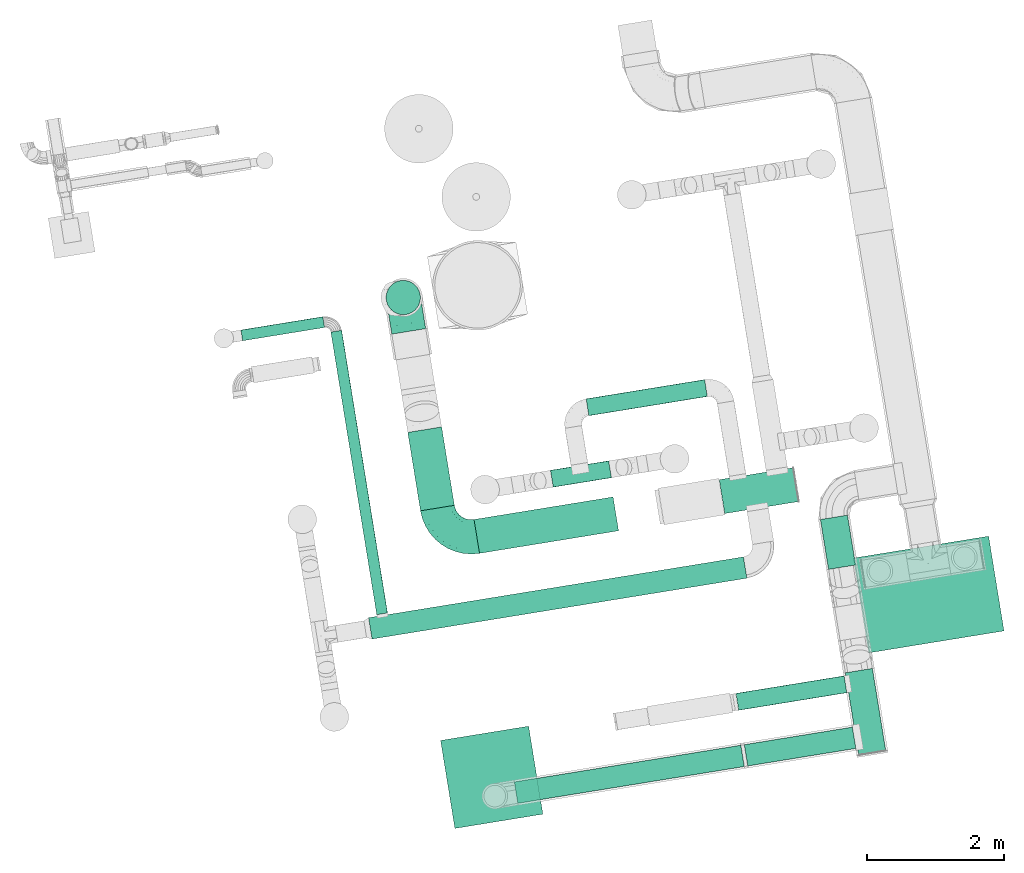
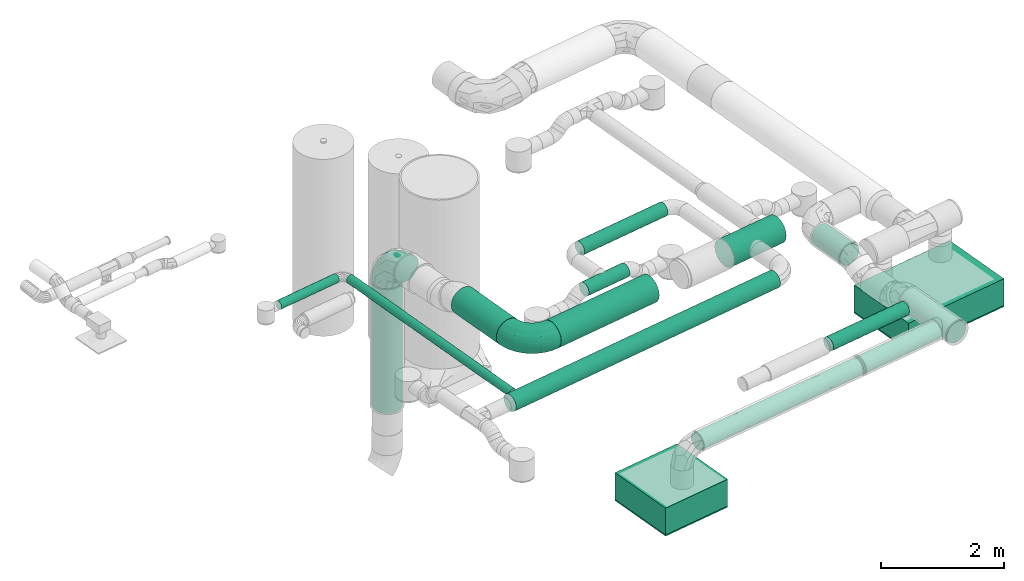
# One storey, part 12 of 39: 16 flow segments, 2 flow fittings, 2 flow terminals.
"""IFC2X3 building model written with IfcOpenShell, lengths in millimetres."""

from ifc_helpers import new_model, entity, si_unit, converted_unit, derived_unit, direction, frame, frame_2d, origin, origin_with_axes, origin_2d_with_axis, place, context, subcontext, project, spatial, rectangle, circle, extrude, faceted_brep, source, transform, mapped, material, type_object, element, save


model = new_model("IFC2X3")

# Units and contexts
model_context = context("Model", 3, precision=0.01, world=origin(), true_north=direction((6.12323399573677e-17, 1.0)))
plan_context = context("Plan", 3, precision=1e-05, world=origin_with_axes())
body_context = subcontext(model_context, "Body", "Model", "MODEL_VIEW")
ifc_project = project(units=[converted_unit("PLANEANGLEUNIT", "DEGREE", entity("IfcPositiveLengthMeasure", 0.0174532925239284), si_unit("PLANEANGLEUNIT", "RADIAN"), dimensions=[0, 0, 0, 0, 0, 0, 0]), si_unit("AREAUNIT", "SQUARE_METRE"), si_unit("LENGTHUNIT", "METRE", prefix="MILLI"), si_unit("MASSUNIT", "GRAM", prefix="KILO"), si_unit("POWERUNIT", "WATT"), si_unit("PRESSUREUNIT", "PASCAL", prefix="KILO"), si_unit("FORCEUNIT", "NEWTON", prefix="KILO"), si_unit("ELECTRICVOLTAGEUNIT", "VOLT"), si_unit("ELECTRICCURRENTUNIT", "AMPERE"), si_unit("THERMODYNAMICTEMPERATUREUNIT", "DEGREE_CELSIUS"), si_unit("TIMEUNIT", "SECOND"), si_unit("VOLUMEUNIT", "CUBIC_METRE"), derived_unit("LINEARVELOCITYUNIT", [(si_unit("LENGTHUNIT", "METRE"), 1), (si_unit("TIMEUNIT", "SECOND"), -1)]), derived_unit("VOLUMETRICFLOWRATEUNIT", [(si_unit("VOLUMEUNIT", "CUBIC_METRE"), 1), (si_unit("TIMEUNIT", "SECOND"), -1)]), derived_unit("THERMALTRANSMITTANCEUNIT", [(si_unit("POWERUNIT", "WATT"), 1), (si_unit("THERMODYNAMICTEMPERATUREUNIT", "KELVIN"), -1), (si_unit("AREAUNIT", "SQUARE_METRE"), -1)]), derived_unit("SOUNDPRESSUREUNIT", [(si_unit("PRESSUREUNIT", "PASCAL"), 1)])], contexts=[model_context, plan_context])

# Site, building, storey
site_placement = place(None, frame((-0.00071070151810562, 0.00438415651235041, 0.0), z_axis=(0.0, 0.0, 1.0), x_axis=(-0.160236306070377, 0.987078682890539, 0.0)))
site = spatial("IfcSite", under=ifc_project, at=site_placement, Name="Default", CompositionType="ELEMENT")
building_placement = place(site_placement, origin_with_axes())
building = spatial("IfcBuilding", under=site, at=building_placement, CompositionType="ELEMENT")
storey_placement = place(building_placement, frame((0.0, 0.0, 50999.9999999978), z_axis=(0.0, 0.0, 1.0), x_axis=(1.0, 0.0, 0.0)))
storey = spatial("IfcBuildingStorey", under=building, at=storey_placement, Name="Nivå D", CompositionType="ELEMENT", Elevation=50999.9999999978)

# Flow fittings
ifc_material = material(Name="<Unnamed>")
duct_fitting_type = type_object("IfcDuctFittingType", Name="magicirc_elbow_full_radius_1:magicirc_elbow_full_radius_001", PredefinedType="NOTDEFINED", material=ifc_material)
shared_shape_1 = source(origin(), body_context, "Body", "Brep", [
    faceted_brep([(-382.674151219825, -240.766255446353, 0.0), (-383.654685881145, -234.575403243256, 55.6302334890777), (-500.0, -243.731978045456, 55.6302334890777), (-500.0, -250.0, 0.0), (-386.547121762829, -216.313281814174, 108.470934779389), (-500.0, -225.242216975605, 108.470934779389), (-391.206420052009, -186.89563018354, 155.872450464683), (-500.0, -195.457870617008, 155.872450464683), (-404.814174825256, -100.979647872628, 225.242216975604), (-500.0, -108.470934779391, 225.242216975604), (-413.080281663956, -48.7895032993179, 243.731978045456), (-500.0, -55.6302334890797, 243.731978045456), (-421.782767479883, 6.15582970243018, 250.0), (-500.0, 0.0, 250.0), (-438.751360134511, 113.291307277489, 225.242216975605), (-500.0, 108.470934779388, 225.242216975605), (-446.166590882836, 160.109231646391, 195.457870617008), (-500.0, 155.872450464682, 195.457870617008), (-452.359114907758, 199.207289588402, 155.872450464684), (-500.0, 195.457870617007, 155.872450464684), (-459.910849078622, 246.887062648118, 55.6302334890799), (-500.0, 243.731978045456, 55.6302334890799), (-460.891383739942, 253.077914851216, 0.0), (-500.0, 250.0, 0.0), (-459.910849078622, 246.887062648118, -55.6302334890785), (-500.0, 243.731978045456, -55.6302334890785), (-457.018413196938, 228.624941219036, -108.470934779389), (-500.0, 225.242216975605, -108.470934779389), (-452.359114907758, 199.207289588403, -155.872450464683), (-500.0, 195.457870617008, -155.872450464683), (-438.751360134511, 113.29130727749, -225.242216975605), (-500.0, 108.47093477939, -225.242216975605), (-430.485253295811, 61.1011627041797, -243.731978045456), (-500.0, 55.6302334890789, -243.731978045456), (-421.782767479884, 6.15582970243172, -250.0), (-500.0, 0.0, -250.0), (-404.814174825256, -100.979647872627, -225.242216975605), (-500.0, -108.470934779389, -225.242216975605), (-397.398944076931, -147.797572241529, -195.457870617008), (-500.0, -155.872450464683, -195.457870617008), (-391.206420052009, -186.895630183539, -155.872450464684), (-500.0, -195.457870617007, -155.872450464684), (-383.654685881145, -234.575403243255, -55.6302334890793), (-500.0, -243.731978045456, -55.6302334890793), (-268.237254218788, -213.292387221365, 0.0), (-270.174179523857, -207.331144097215, 55.6302334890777), (-275.887829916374, -189.746336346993, 108.470934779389), (-285.09169910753, -161.419739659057, 155.872450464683), (-311.972140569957, -78.6902474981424, 225.242216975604), (-328.300815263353, -28.4357542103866, 243.731978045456), (-345.491502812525, 24.4717418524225, 250.0), (-379.010865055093, 127.633731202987, 225.242216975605), (-393.658738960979, 172.715251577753, 195.457870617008), (-405.89130651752, 210.363223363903, 155.872450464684), (-420.808826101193, 256.274627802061, 55.6302334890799), (-422.745751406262, 262.235870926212, 0.0), (-420.808826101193, 256.274627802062, -55.6302334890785), (-415.095175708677, 238.689820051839, -108.470934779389), (-405.89130651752, 210.363223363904, -155.872450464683), (-379.010865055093, 127.633731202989, -225.242216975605), (-362.682190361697, 77.3792379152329, -243.731978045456), (-345.491502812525, 24.4717418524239, -250.0), (-311.972140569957, -78.690247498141, -225.242216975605), (-297.324266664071, -123.771767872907, -195.457870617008), (-285.09169910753, -161.419739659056, -155.872450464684), (-270.174179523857, -207.331144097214, -55.6302334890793), (-159.507125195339, -168.254893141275, 0.0), (-162.35274761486, -162.670044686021, 55.6302334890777), (-170.746923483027, -146.195546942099, 108.470934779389), (-184.268733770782, -119.657500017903, 155.872450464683), (-223.759976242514, -42.1515726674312, 225.242216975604), (-247.749152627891, 4.92983692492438, 243.731978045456), (-273.004750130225, 54.4967379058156, 250.0), (-322.249524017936, 151.145048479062, 225.242216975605), (-343.769361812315, 193.380108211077, 195.457870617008), (-361.740766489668, 228.650975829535, 155.872450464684), (-383.656752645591, 271.663520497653, 55.6302334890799), (-386.502375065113, 277.248368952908, 0.0), (-383.656752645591, 271.663520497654, -55.6302334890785), (-375.262576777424, 255.189022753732, -108.470934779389), (-361.740766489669, 228.650975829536, -155.872450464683), (-322.249524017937, 151.145048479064, -225.242216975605), (-298.26034763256, 104.063638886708, -243.731978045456), (-273.004750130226, 54.496737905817, -250.0), (-223.759976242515, -42.1515726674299, -225.242216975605), (-202.240138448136, -84.386632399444, -195.457870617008), (-184.268733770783, -119.657500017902, -155.872450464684), (-162.352747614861, -162.67004468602, -55.6302334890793), (-59.1610607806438, -106.76274578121, 0.0), (-62.8453116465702, -101.691809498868, 55.6302334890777), (-73.7133205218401, -86.7332785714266, 108.470934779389), (-91.2201200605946, -62.637236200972, 155.872450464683), (-142.349758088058, 7.73667318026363, 225.242216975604), (-173.408743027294, 50.4856985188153, 243.731978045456), (-206.107373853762, 95.4915028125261, 250.0), (-269.864989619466, 183.246332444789, 225.242216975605), (-297.726901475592, 221.594964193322, 195.457870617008), (-320.994627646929, 253.620241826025, 155.872450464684), (-349.369436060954, 292.674815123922, 55.6302334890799), (-353.053686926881, 297.745751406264, 0.0), (-349.369436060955, 292.674815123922, -55.6302334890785), (-338.501427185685, 277.71628419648, -108.470934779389), (-320.99462764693, 253.620241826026, -155.872450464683), (-269.864989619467, 183.24633244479, -225.242216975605), (-238.80600468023, 140.497307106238, -243.731978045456), (-206.107373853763, 95.4915028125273, -250.0), (-142.349758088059, 7.73667318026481, -225.242216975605), (-114.487846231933, -30.6119585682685, -195.457870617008), (-91.2201200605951, -62.6372362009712, -155.872450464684), (-62.8453116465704, -101.691809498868, -55.6302334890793), (30.3300858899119, -30.3300858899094, 0.0), (25.8979250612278, -25.8979250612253, 55.6302334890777), (12.8236896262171, -12.8236896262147, 108.470934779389), (-8.23702365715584, 8.23702365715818, 155.872450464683), (-69.7460758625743, 69.7460758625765, 225.242216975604), (-107.110094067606, 107.110094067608, 243.731978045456), (-146.446609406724, 146.446609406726, 250.0), (-223.147142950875, 223.147142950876, 225.242216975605), (-256.665076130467, 256.665076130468, 195.457870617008), (-284.656195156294, 284.656195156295, 155.872450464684), (-318.791143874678, 318.791143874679, 55.6302334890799), (-323.223304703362, 323.223304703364, 0.0), (-318.791143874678, 318.79114387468, -55.6302334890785), (-305.716908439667, 305.716908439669, -108.470934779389), (-284.656195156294, 284.656195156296, -155.872450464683), (-223.147142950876, 223.147142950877, -225.242216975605), (-185.783124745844, 185.783124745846, -243.731978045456), (-146.446609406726, 146.446609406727, -250.0), (-69.7460758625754, 69.7460758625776, -225.242216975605), (-36.2281426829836, 36.2281426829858, -195.457870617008), (-8.23702365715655, 8.23702365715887, -155.872450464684), (25.8979250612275, -25.897925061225, -55.6302334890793), (106.762745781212, 59.1610607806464, 0.0), (101.69180949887, 62.8453116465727, 55.6302334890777), (86.7332785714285, 73.7133205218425, 108.470934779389), (62.6372362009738, 91.2201200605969, 155.872450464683), (-7.7366731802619, 142.34975808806, 225.242216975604), (-50.4856985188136, 173.408743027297, 243.731978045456), (-95.4915028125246, 206.107373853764, 250.0), (-183.246332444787, 269.864989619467, 225.242216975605), (-221.594964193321, 297.726901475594, 195.457870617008), (-253.620241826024, 320.994627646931, 155.872450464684), (-292.674815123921, 349.369436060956, 55.6302334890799), (-297.745751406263, 353.053686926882, 0.0), (-292.674815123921, 349.369436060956, -55.6302334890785), (-277.716284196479, 338.501427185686, -108.470934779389), (-253.620241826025, 320.994627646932, -155.872450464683), (-183.246332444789, 269.864989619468, -225.242216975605), (-140.497307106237, 238.806004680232, -243.731978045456), (-95.4915028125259, 206.107373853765, -250.0), (-7.73667318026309, 142.349758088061, -225.242216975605), (30.6119585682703, 114.487846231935, -195.457870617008), (62.637236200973, 91.2201200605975, -155.872450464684), (101.69180949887, 62.8453116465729, -55.6302334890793), (168.254893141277, 159.507125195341, 0.0), (162.670044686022, 162.352747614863, 55.6302334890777), (146.195546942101, 170.74692348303, 108.470934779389), (119.657500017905, 184.268733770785, 155.872450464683), (42.1515726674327, 223.759976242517, 225.242216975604), (-4.92983692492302, 247.749152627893, 243.731978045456), (-54.4967379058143, 273.004750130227, 250.0), (-151.145048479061, 322.249524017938, 225.242216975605), (-193.380108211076, 343.769361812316, 195.457870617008), (-228.650975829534, 361.74076648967, 155.872450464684), (-271.663520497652, 383.656752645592, 55.6302334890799), (-277.248368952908, 386.502375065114, 0.0), (-271.663520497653, 383.656752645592, -55.6302334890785), (-255.189022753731, 375.262576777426, -108.470934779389), (-228.650975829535, 361.74076648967, -155.872450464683), (-151.145048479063, 322.249524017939, -225.242216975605), (-104.063638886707, 298.260347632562, -243.731978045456), (-54.4967379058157, 273.004750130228, -250.0), (42.1515726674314, 223.759976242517, -225.242216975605), (84.3866323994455, 202.240138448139, -195.457870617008), (119.657500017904, 184.268733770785, -155.872450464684), (162.670044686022, 162.352747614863, -55.6302334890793), (213.292387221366, 268.237254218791, 0.0), (207.331144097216, 270.17417952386, 55.6302334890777), (189.746336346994, 275.887829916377, 108.470934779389), (161.419739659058, 285.091699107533, 155.872450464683), (78.6902474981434, 311.972140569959, 225.242216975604), (28.4357542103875, 328.300815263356, 243.731978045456), (-24.4717418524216, 345.491502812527, 250.0), (-127.633731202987, 379.010865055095, 225.242216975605), (-172.715251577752, 393.658738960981, 195.457870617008), (-210.363223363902, 405.891306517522, 155.872450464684), (-256.274627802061, 420.808826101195, 55.6302334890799), (-262.235870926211, 422.745751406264, 0.0), (-256.274627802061, 420.808826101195, -55.6302334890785), (-238.689820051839, 415.095175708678, -108.470934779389), (-210.363223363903, 405.891306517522, -155.872450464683), (-127.633731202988, 379.010865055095, -225.242216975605), (-77.3792379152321, 362.682190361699, -243.731978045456), (-24.4717418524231, 345.491502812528, -250.0), (78.690247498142, 311.97214056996, -225.242216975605), (123.771767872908, 297.324266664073, -195.457870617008), (161.419739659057, 285.091699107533, -155.872450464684), (207.331144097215, 270.17417952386, -55.6302334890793), (240.766255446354, 382.674151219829, 0.0), (234.575403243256, 383.654685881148, 55.6302334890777), (216.313281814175, 386.547121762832, 108.470934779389), (186.895630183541, 391.206420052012, 155.872450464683), (100.979647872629, 404.814174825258, 225.242216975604), (48.7895032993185, 413.080281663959, 243.731978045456), (-6.1558297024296, 421.782767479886, 250.0), (-113.291307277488, 438.751360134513, 225.242216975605), (-160.109231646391, 446.166590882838, 195.457870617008), (-199.207289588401, 452.35911490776, 155.872450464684), (-246.887062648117, 459.910849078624, 55.6302334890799), (-253.077914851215, 460.891383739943, 0.0), (-246.887062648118, 459.910849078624, -55.6302334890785), (-228.624941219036, 457.01841319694, -108.470934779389), (-199.207289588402, 452.35911490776, -155.872450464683), (-113.29130727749, 438.751360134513, -225.242216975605), (-61.1011627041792, 430.485253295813, -243.731978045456), (-6.15582970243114, 421.782767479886, -250.0), (100.979647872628, 404.814174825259, -225.242216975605), (147.79757224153, 397.398944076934, -195.457870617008), (186.89563018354, 391.206420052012, -155.872450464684), (234.575403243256, 383.654685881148, -55.6302334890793), (250.0, 500.0, 0.0), (243.731978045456, 500.0, 55.6302334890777), (225.242216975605, 500.0, 108.470934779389), (195.457870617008, 500.0, 155.872450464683), (108.470934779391, 500.0, 225.242216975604), (55.63023348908, 500.0, 243.731978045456), (0.0, 500.0, 250.0), (-108.470934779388, 500.0, 225.242216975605), (-155.872450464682, 500.0, 195.457870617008), (-195.457870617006, 500.0, 155.872450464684), (-243.731978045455, 500.0, 55.6302334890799), (-250.0, 500.0, 0.0), (-243.731978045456, 500.0, -55.6302334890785), (-225.242216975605, 500.0, -108.470934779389), (-195.457870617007, 500.0, -155.872450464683), (-108.47093477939, 500.0, -225.242216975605), (-55.6302334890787, 500.0, -243.731978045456), (0.0, 500.0, -250.0), (108.470934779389, 500.0, -225.242216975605), (155.872450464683, 500.0, -195.457870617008), (195.457870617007, 500.0, -155.872450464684), (243.731978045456, 500.0, -55.6302334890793)], [[[0, 1, 2, 3]], [[1, 4, 5, 2]], [[4, 6, 7, 5]], [[6, 8, 9, 7]], [[8, 10, 11, 9]], [[10, 12, 13, 11]], [[12, 14, 15, 13]], [[14, 16, 17, 15]], [[16, 18, 19, 17]], [[18, 20, 21, 19]], [[20, 22, 23, 21]], [[22, 24, 25, 23]], [[24, 26, 27, 25]], [[26, 28, 29, 27]], [[28, 30, 31, 29]], [[30, 32, 33, 31]], [[32, 34, 35, 33]], [[34, 36, 37, 35]], [[36, 38, 39, 37]], [[38, 40, 41, 39]], [[40, 42, 43, 41]], [[42, 0, 3, 43]], [[44, 45, 1, 0]], [[45, 46, 4, 1]], [[46, 47, 6, 4]], [[47, 48, 8, 6]], [[48, 49, 10, 8]], [[49, 50, 12, 10]], [[50, 51, 14, 12]], [[51, 52, 16, 14]], [[52, 53, 18, 16]], [[53, 54, 20, 18]], [[54, 55, 22, 20]], [[55, 56, 24, 22]], [[56, 57, 26, 24]], [[57, 58, 28, 26]], [[58, 59, 30, 28]], [[59, 60, 32, 30]], [[60, 61, 34, 32]], [[61, 62, 36, 34]], [[62, 63, 38, 36]], [[63, 64, 40, 38]], [[64, 65, 42, 40]], [[65, 44, 0, 42]], [[66, 67, 45, 44]], [[67, 68, 46, 45]], [[68, 69, 47, 46]], [[69, 70, 48, 47]], [[70, 71, 49, 48]], [[71, 72, 50, 49]], [[72, 73, 51, 50]], [[73, 74, 52, 51]], [[74, 75, 53, 52]], [[75, 76, 54, 53]], [[76, 77, 55, 54]], [[77, 78, 56, 55]], [[78, 79, 57, 56]], [[79, 80, 58, 57]], [[80, 81, 59, 58]], [[81, 82, 60, 59]], [[82, 83, 61, 60]], [[83, 84, 62, 61]], [[84, 85, 63, 62]], [[85, 86, 64, 63]], [[86, 87, 65, 64]], [[87, 66, 44, 65]], [[88, 89, 67, 66]], [[89, 90, 68, 67]], [[90, 91, 69, 68]], [[91, 92, 70, 69]], [[92, 93, 71, 70]], [[93, 94, 72, 71]], [[94, 95, 73, 72]], [[95, 96, 74, 73]], [[96, 97, 75, 74]], [[97, 98, 76, 75]], [[98, 99, 77, 76]], [[99, 100, 78, 77]], [[100, 101, 79, 78]], [[101, 102, 80, 79]], [[102, 103, 81, 80]], [[103, 104, 82, 81]], [[104, 105, 83, 82]], [[105, 106, 84, 83]], [[106, 107, 85, 84]], [[107, 108, 86, 85]], [[108, 109, 87, 86]], [[109, 88, 66, 87]], [[110, 111, 89, 88]], [[111, 112, 90, 89]], [[112, 113, 91, 90]], [[113, 114, 92, 91]], [[114, 115, 93, 92]], [[115, 116, 94, 93]], [[116, 117, 95, 94]], [[117, 118, 96, 95]], [[118, 119, 97, 96]], [[119, 120, 98, 97]], [[120, 121, 99, 98]], [[121, 122, 100, 99]], [[122, 123, 101, 100]], [[123, 124, 102, 101]], [[124, 125, 103, 102]], [[125, 126, 104, 103]], [[126, 127, 105, 104]], [[127, 128, 106, 105]], [[128, 129, 107, 106]], [[129, 130, 108, 107]], [[130, 131, 109, 108]], [[131, 110, 88, 109]], [[132, 133, 111, 110]], [[133, 134, 112, 111]], [[134, 135, 113, 112]], [[135, 136, 114, 113]], [[136, 137, 115, 114]], [[137, 138, 116, 115]], [[138, 139, 117, 116]], [[139, 140, 118, 117]], [[140, 141, 119, 118]], [[141, 142, 120, 119]], [[142, 143, 121, 120]], [[143, 144, 122, 121]], [[144, 145, 123, 122]], [[145, 146, 124, 123]], [[146, 147, 125, 124]], [[147, 148, 126, 125]], [[148, 149, 127, 126]], [[149, 150, 128, 127]], [[150, 151, 129, 128]], [[151, 152, 130, 129]], [[152, 153, 131, 130]], [[153, 132, 110, 131]], [[154, 155, 133, 132]], [[155, 156, 134, 133]], [[156, 157, 135, 134]], [[157, 158, 136, 135]], [[158, 159, 137, 136]], [[159, 160, 138, 137]], [[160, 161, 139, 138]], [[161, 162, 140, 139]], [[162, 163, 141, 140]], [[163, 164, 142, 141]], [[164, 165, 143, 142]], [[165, 166, 144, 143]], [[166, 167, 145, 144]], [[167, 168, 146, 145]], [[168, 169, 147, 146]], [[169, 170, 148, 147]], [[170, 171, 149, 148]], [[171, 172, 150, 149]], [[172, 173, 151, 150]], [[173, 174, 152, 151]], [[174, 175, 153, 152]], [[175, 154, 132, 153]], [[176, 177, 155, 154]], [[177, 178, 156, 155]], [[178, 179, 157, 156]], [[179, 180, 158, 157]], [[180, 181, 159, 158]], [[181, 182, 160, 159]], [[182, 183, 161, 160]], [[183, 184, 162, 161]], [[184, 185, 163, 162]], [[185, 186, 164, 163]], [[186, 187, 165, 164]], [[187, 188, 166, 165]], [[188, 189, 167, 166]], [[189, 190, 168, 167]], [[190, 191, 169, 168]], [[191, 192, 170, 169]], [[192, 193, 171, 170]], [[193, 194, 172, 171]], [[194, 195, 173, 172]], [[195, 196, 174, 173]], [[196, 197, 175, 174]], [[197, 176, 154, 175]], [[198, 199, 177, 176]], [[199, 200, 178, 177]], [[200, 201, 179, 178]], [[201, 202, 180, 179]], [[202, 203, 181, 180]], [[203, 204, 182, 181]], [[204, 205, 183, 182]], [[205, 206, 184, 183]], [[206, 207, 185, 184]], [[207, 208, 186, 185]], [[208, 209, 187, 186]], [[209, 210, 188, 187]], [[210, 211, 189, 188]], [[211, 212, 190, 189]], [[212, 213, 191, 190]], [[213, 214, 192, 191]], [[214, 215, 193, 192]], [[215, 216, 194, 193]], [[216, 217, 195, 194]], [[217, 218, 196, 195]], [[218, 219, 197, 196]], [[219, 198, 176, 197]], [[220, 221, 199, 198]], [[221, 222, 200, 199]], [[222, 223, 201, 200]], [[223, 224, 202, 201]], [[224, 225, 203, 202]], [[225, 226, 204, 203]], [[226, 227, 205, 204]], [[227, 228, 206, 205]], [[228, 229, 207, 206]], [[229, 230, 208, 207]], [[230, 231, 209, 208]], [[231, 232, 210, 209]], [[232, 233, 211, 210]], [[233, 234, 212, 211]], [[234, 235, 213, 212]], [[235, 236, 214, 213]], [[236, 237, 215, 214]], [[237, 238, 216, 215]], [[238, 239, 217, 216]], [[239, 240, 218, 217]], [[240, 241, 219, 218]], [[241, 220, 198, 219]], [[3, 2, 5, 7, 9, 11, 13, 15, 17, 19, 21, 23, 25, 27, 29, 31, 33, 35, 37, 39, 41, 43]], [[241, 240, 239, 238, 237, 236, 235, 234, 233, 232, 231, 230, 229, 228, 227, 226, 225, 224, 223, 222, 221, 220]]]),
])
for number, where, z_axis, x_axis, name in (
    (1, (776624.566038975, -595037.180498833, 3150.0), (0.0, 1.0, 0.0), (1.0, 0.0, 0.0), "magicirc_elbow_full_radius_1:magicirc_elbow_full_radius_001"),
    (2, (773014.47928963, -595037.180498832, 3310.0), (0.0, 0.0, 1.0), (-1.0, 0.0, 0.0), "magicirc_elbow_full_radius_1:magicirc_elbow_full_radius_001"),
):
    element("IfcFlowFitting", number, at=place(storey_placement, frame(where, z_axis=z_axis, x_axis=x_axis)), inside=storey, type_object=duct_fitting_type, material=ifc_material, Name=name, ObjectType="magicirc_elbow_full_radius_1:magicirc_elbow_full_radius_001", context=body_context, shape_type="MappedRepresentation", body=[
        mapped(shared_shape_1, transform((0.0, 0.0, 0.0), scale=1.0)),
    ])

# Flow terminals
air_terminal_type_1 = type_object("IfcAirTerminalType", Name="KJØKKENHETTE - FA:KJØKKENHETTE - kjøkkenhette 2000x1400 - FA013T", PredefinedType="NOTDEFINED", material=ifc_material)
shared_shape_2 = source(origin(), body_context, "Body", "SweptSolid", [
    extrude(rectangle(XDim=10.0, YDim=10.0, at=frame_2d((8.88178419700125e-16, 0.0), x_axis=(1.0, 0.0))), frame((0.0, 0.0, 0.0), z_axis=(0.0, 0.0, 1.0), x_axis=(-1.0, 0.0, 0.0)), (0.0, 0.0, 1.0), 25.0),
    extrude(rectangle(XDim=2000.0, YDim=1400.0, at=origin_2d_with_axis()), frame((0.0, 0.0, 0.0), z_axis=(0.0, 0.0, 1.0), x_axis=(0.0, 1.0, 0.0)), (0.0, 0.0, 1.0), 25.0),
])
flow_terminal_1_placement = place(storey_placement, frame((771122.619644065, -601904.712231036, 2000.0), z_axis=(0.0, 0.0, 1.0), x_axis=(1.0, 0.0, 0.0)))
element("IfcFlowTerminal", 3, at=flow_terminal_1_placement, inside=storey, type_object=air_terminal_type_1, material=ifc_material, Name="KJØKKENHETTE - FA:KJØKKENHETTE - kjøkkenhette 2000x1400 - FA013T", ObjectType="KJØKKENHETTE - FA:KJØKKENHETTE - kjøkkenhette 2000x1400 - FA013T", context=body_context, shape_type="MappedRepresentation", body=[
    mapped(shared_shape_2, transform((0.0, 0.0, 0.0), scale=1.0)),
])
air_terminal_type_2 = type_object("IfcAirTerminalType", Name="KJØKKENHETTE - FA:KJØKKENHETTE - Kjøkkenhette 1300x1300 - FA002T", PredefinedType="NOTDEFINED", material=ifc_material)
shared_shape_3 = source(origin(), body_context, "Body", "SweptSolid", [
    extrude(rectangle(XDim=10.0, YDim=10.0, at=frame_2d((8.88178419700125e-16, 0.0), x_axis=(1.0, 0.0))), frame((0.0, 0.0, 0.0), z_axis=(0.0, 0.0, 1.0), x_axis=(-1.0, 0.0, 0.0)), (0.0, 0.0, 1.0), 25.0),
    extrude(rectangle(XDim=1300.0, YDim=1300.0, at=origin_2d_with_axis()), frame((0.0, 0.0, 0.0), z_axis=(0.0, 0.0, 1.0), x_axis=(0.0, 1.0, 0.0)), (0.0, 0.0, 1.0), 25.0),
])
flow_terminal_2_placement = place(storey_placement, frame((769512.619644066, -595189.746741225, 2000.0), z_axis=(0.0, 0.0, 1.0), x_axis=(1.0, 0.0, 0.0)))
element("IfcFlowTerminal", 4, at=flow_terminal_2_placement, inside=storey, type_object=air_terminal_type_2, material=ifc_material, Name="KJØKKENHETTE - FA:KJØKKENHETTE - Kjøkkenhette 1300x1300 - FA002T", ObjectType="KJØKKENHETTE - FA:KJØKKENHETTE - Kjøkkenhette 1300x1300 - FA002T", context=body_context, shape_type="MappedRepresentation", body=[
    mapped(shared_shape_3, transform((0.0, 0.0, 0.0), scale=1.0)),
])

# Flow segments
duct_segment_type_1 = type_object("IfcDuctSegmentType", Name="Round Duct:KK001T - Spiro kanaler, Forsinket stål", PredefinedType="NOTDEFINED")
flow_segment_1_placement = place(storey_placement, origin_with_axes())
element("IfcFlowSegment", 5, at=flow_segment_1_placement, inside=storey, type_object=duct_segment_type_1, Name="Round Duct:KK001T - Spiro kanaler, Forsinket stål", ObjectType="Round Duct:KK001T - Spiro kanaler, Forsinket stål", context=body_context, shape_type="SweptSolid", body=[
    extrude(circle(Radius=250.0, at=origin_2d_with_axis()), frame((776624.566038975, -595037.180498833, 175.249999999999), z_axis=(0.0, 0.0, 1.0), x_axis=(0.0, -1.0, 0.0)), (0.0, 0.0, 1.0), 2474.75000000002),
])
flow_segment_2_placement = place(storey_placement, origin_with_axes())
element("IfcFlowSegment", 6, at=flow_segment_2_placement, inside=storey, type_object=duct_segment_type_1, Name="Round Duct:KK001T - Spiro kanaler, Forsinket stål", ObjectType="Round Duct:KK001T - Spiro kanaler, Forsinket stål", context=body_context, shape_type="SweptSolid", body=[
    extrude(circle(Radius=157.5, at=frame_2d((0.0, -8.66293703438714e-12), x_axis=(1.0, 0.0))), frame((769234.832653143, -598849.480498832, 3250.0), z_axis=(0.0, 1.0, 0.0), x_axis=(1.0, 0.0, 0.0)), (0.0, 0.0, 1.0), 3344.73375760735),
])
flow_segment_3_placement = place(storey_placement, origin_with_axes())
element("IfcFlowSegment", 7, at=flow_segment_3_placement, inside=storey, type_object=duct_segment_type_1, Name="Round Duct:KK001T - Spiro kanaler, Forsinket stål", ObjectType="Round Duct:KK001T - Spiro kanaler, Forsinket stål", context=body_context, shape_type="SweptSolid", body=[
    extrude(circle(Radius=125.0, at=frame_2d((0.0, -8.66293703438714e-12), x_axis=(1.0, 0.0))), frame((770024.832653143, -600497.905078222, 3250.0), z_axis=(0.0, 1.0, 0.0), x_axis=(1.0, 0.0, 0.0)), (0.0, 0.0, 1.0), 1596.42457938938),
])
flow_segment_4_placement = place(storey_placement, origin_with_axes())
element("IfcFlowSegment", 8, at=flow_segment_4_placement, inside=storey, type_object=duct_segment_type_1, Name="Round Duct:KK001T - Spiro kanaler, Forsinket stål", ObjectType="Round Duct:KK001T - Spiro kanaler, Forsinket stål", context=body_context, shape_type="SweptSolid", body=[
    extrude(circle(Radius=157.5, at=frame_2d((0.0, -8.66293703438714e-12), x_axis=(1.0, 0.0))), frame((769234.832653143, -600497.905078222, 3250.0), z_axis=(0.0, 1.0, 0.0), x_axis=(1.0, 0.0, 0.0)), (0.0, 0.0, 1.0), 1596.42457938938),
])
flow_segment_5_placement = place(storey_placement, origin_with_axes())
element("IfcFlowSegment", 9, at=flow_segment_5_placement, inside=storey, type_object=duct_segment_type_1, Name="Round Duct:KK001T - Spiro kanaler, Forsinket stål", ObjectType="Round Duct:KK001T - Spiro kanaler, Forsinket stål", context=body_context, shape_type="SweptSolid", body=[
    extrude(circle(Radius=250.0, at=frame_2d((-6.93034962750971e-10, 0.0), x_axis=(1.0, 0.0))), frame((773514.47928963, -595037.180498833, 3310.0), z_axis=(1.0, 0.0, 0.0), x_axis=(0.0, 1.0, 0.0)), (0.0, 0.0, 1.0), 1158.1543583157),
])
flow_segment_6_placement = place(storey_placement, origin_with_axes())
element("IfcFlowSegment", 10, at=flow_segment_6_placement, inside=storey, type_object=duct_segment_type_1, Name="Round Duct:KK001T - Spiro kanaler, Forsinket stål", ObjectType="Round Duct:KK001T - Spiro kanaler, Forsinket stål", context=body_context, shape_type="SweptSolid", body=[
    extrude(circle(Radius=250.0, at=origin_2d_with_axis()), frame((773014.47928963, -600252.580498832, 3310.0), z_axis=(0.0, 1.0, 0.0), x_axis=(-1.0, 0.0, 0.0)), (0.0, 0.0, 1.0), 1092.60000000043),
])
flow_segment_7_placement = place(storey_placement, origin_with_axes())
element("IfcFlowSegment", 11, at=flow_segment_7_placement, inside=storey, type_object=duct_segment_type_1, Name="Round Duct:KK001T - Spiro kanaler, Forsinket stål", ObjectType="Round Duct:KK001T - Spiro kanaler, Forsinket stål", context=body_context, shape_type="SweptSolid", body=[
    extrude(circle(Radius=250.0, at=origin_2d_with_axis()), frame((773014.47928963, -597591.230498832, 3310.0), z_axis=(0.0, 1.0, 0.0), x_axis=(-1.0, 0.0, 0.0)), (0.0, 0.0, 1.0), 2054.04999999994),
])
flow_segment_8_placement = place(storey_placement, origin_with_axes())
element("IfcFlowSegment", 12, at=flow_segment_8_placement, inside=storey, type_object=duct_segment_type_1, Name="Round Duct:KK001T - Spiro kanaler, Forsinket stål", ObjectType="Round Duct:KK001T - Spiro kanaler, Forsinket stål", context=body_context, shape_type="SweptSolid", body=[
    extrude(circle(Radius=200.0, at=frame_2d((0.0, -8.66293703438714e-12), x_axis=(1.0, 0.0))), frame((771718.422491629, -600722.905078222, 3300.0), z_axis=(1.0, 0.0, 0.0), x_axis=(0.0, 1.0, 0.0)), (0.0, 0.0, 1.0), 736.41016151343),
])
flow_segment_9_placement = place(storey_placement, origin_with_axes())
element("IfcFlowSegment", 13, at=flow_segment_9_placement, inside=storey, type_object=duct_segment_type_1, Name="Round Duct:KK001T - Spiro kanaler, Forsinket stål", ObjectType="Round Duct:KK001T - Spiro kanaler, Forsinket stål", context=body_context, shape_type="SweptSolid", body=[
    extrude(circle(Radius=125.0, at=frame_2d((0.0, -8.66293703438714e-12), x_axis=(1.0, 0.0))), frame((773669.47928963, -597612.432186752, 3310.0), z_axis=(0.0, 1.0, 0.0), x_axis=(-1.0, 0.0, 0.0)), (0.0, 0.0, 1.0), 859.752529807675),
])
flow_segment_10_placement = place(storey_placement, origin_with_axes())
element("IfcFlowSegment", 14, at=flow_segment_10_placement, inside=storey, type_object=duct_segment_type_1, Name="Round Duct:KK001T - Spiro kanaler, Forsinket stål", ObjectType="Round Duct:KK001T - Spiro kanaler, Forsinket stål", context=body_context, shape_type="SweptSolid", body=[
    extrude(circle(Radius=157.5, at=origin_2d_with_axis()), frame((771939.47928963, -599327.555921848, 3310.0), z_axis=(0.0, 1.0, 0.0), x_axis=(1.0, 0.0, 0.0)), (0.0, 0.0, 1.0), 5537.45673587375),
])
flow_segment_11_placement = place(storey_placement, origin_with_axes())
element("IfcFlowSegment", 15, at=flow_segment_11_placement, inside=storey, type_object=duct_segment_type_1, Name="Round Duct:KK001T - Spiro kanaler, Forsinket stål", ObjectType="Round Duct:KK001T - Spiro kanaler, Forsinket stål", context=body_context, shape_type="SweptSolid", body=[
    extrude(circle(Radius=80.0, at=origin_2d_with_axis()), frame((772121.97928963, -593994.407161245, 3310.0), z_axis=(1.0, 0.0, 0.0), x_axis=(0.0, -1.0, 0.0)), (0.0, 0.0, 1.0), 4174.99999999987),
])
flow_segment_12_placement = place(storey_placement, origin_with_axes())
element("IfcFlowSegment", 16, at=flow_segment_12_placement, inside=storey, type_object=duct_segment_type_1, Name="Round Duct:KK001T - Spiro kanaler, Forsinket stål", ObjectType="Round Duct:KK001T - Spiro kanaler, Forsinket stål", context=body_context, shape_type="SweptSolid", body=[
    extrude(circle(Radius=80.0, at=origin_2d_with_axis()), frame((776456.97928963, -593834.407161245, 3310.0), z_axis=(0.0, 1.0, 0.0), x_axis=(1.0, 0.0, 0.0)), (0.0, 0.0, 1.0), 1209.9999999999),
])
flow_segment_13_placement = place(storey_placement, origin_with_axes())
element("IfcFlowSegment", 17, at=flow_segment_13_placement, inside=storey, type_object=duct_segment_type_1, Name="Round Duct:KK001T - Spiro kanaler, Forsinket stål", ObjectType="Round Duct:KK001T - Spiro kanaler, Forsinket stål", context=body_context, shape_type="SweptSolid", body=[
    extrude(circle(Radius=200.0, at=origin_2d_with_axis()), frame((768974.832653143, -600722.905078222, 3250.0), z_axis=(1.0, 0.0, 0.0), x_axis=(0.0, -1.0, 0.0)), (0.0, 0.0, 1.0), 1215.64064605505),
])
flow_segment_14_placement = place(storey_placement, origin_with_axes())
element("IfcFlowSegment", 18, at=flow_segment_14_placement, inside=storey, type_object=duct_segment_type_1, Name="Round Duct:KK001T - Spiro kanaler, Forsinket stål", ObjectType="Round Duct:KK001T - Spiro kanaler, Forsinket stål", context=body_context, shape_type="SweptSolid", body=[
    extrude(circle(Radius=125.0, at=frame_2d((0.0, -8.66293703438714e-12), x_axis=(1.0, 0.0))), frame((774614.47928963, -599182.555921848, 3310.0), z_axis=(0.0, 1.0, 0.0), x_axis=(-1.0, 0.0, 0.0)), (0.0, 0.0, 1.0), 1750.00000000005),
])
duct_segment_type_2 = type_object("IfcDuctSegmentType", Name="Rectangular Duct:KK002T - Rektangulære, Forsinket stål", PredefinedType="NOTDEFINED")
flow_segment_15_placement = place(storey_placement, origin_with_axes())
element("IfcFlowSegment", 19, at=flow_segment_15_placement, inside=storey, type_object=duct_segment_type_2, Name="Rectangular Duct:KK002T - Rektangulære, Forsinket stål", ObjectType="Rectangular Duct:KK002T - Rektangulære, Forsinket stål", context=body_context, shape_type="SweptSolid", body=[
    extrude(rectangle(XDim=2000.00000000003, YDim=1399.99999999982, at=origin_2d_with_axis()), frame((771122.619644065, -601904.712231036, 2025.0), z_axis=(0.0, 0.0, 1.0), x_axis=(0.0, -1.0, 0.0)), (0.0, 0.0, 1.0), 529.999999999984),
])
flow_segment_16_placement = place(storey_placement, origin_with_axes())
element("IfcFlowSegment", 20, at=flow_segment_16_placement, inside=storey, type_object=duct_segment_type_2, Name="Rectangular Duct:KK002T - Rektangulære, Forsinket stål", ObjectType="Rectangular Duct:KK002T - Rektangulære, Forsinket stål", context=body_context, shape_type="SweptSolid", body=[
    extrude(rectangle(XDim=1299.99999999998, YDim=1300.00000000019, at=origin_2d_with_axis()), frame((769512.619644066, -595189.746741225, 2025.0), z_axis=(0.0, 0.0, 1.0), x_axis=(0.0, 1.0, 0.0)), (0.0, 0.0, 1.0), 530.000000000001),
])

save(model, "model.ifc")
